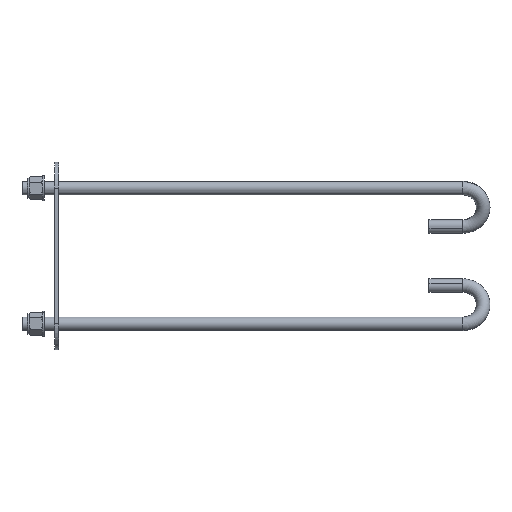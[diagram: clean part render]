
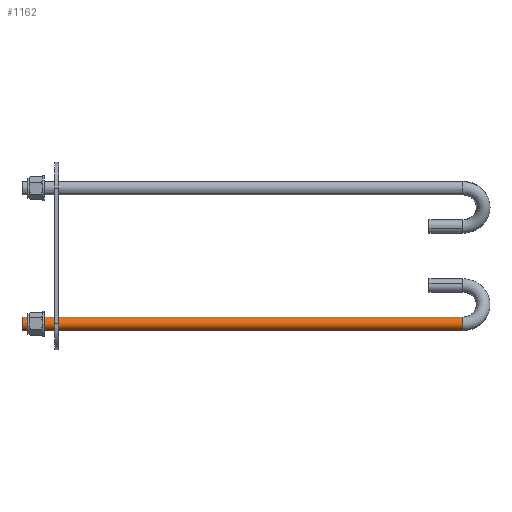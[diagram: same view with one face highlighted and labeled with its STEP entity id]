
A CAD part, left-side view. The second image highlights one B-rep face of the part: STEP entity #1162.
In plain terms, the highlighted cylindrical face has radius 10 mm (diameter 20 mm), a partial arc.
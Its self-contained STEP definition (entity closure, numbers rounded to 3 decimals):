
#33 = CARTESIAN_POINT ( 'NONE',  ( 0., -1., 0. ) ) ;
#112 = DIRECTION ( 'NONE',  ( 0., 0., 1. ) ) ;
#178 = EDGE_CURVE ( 'NONE', #249, #2437, #1096, .T. ) ;
#188 = EDGE_LOOP ( 'NONE', ( #1140, #1238, #1310, #1637 ) ) ;
#192 = DIRECTION ( 'NONE',  ( 0., 1., 0. ) ) ;
#249 = VERTEX_POINT ( 'NONE', #2328 ) ;
#271 = DIRECTION ( 'NONE',  ( 0., 1., 0. ) ) ;
#335 = DIRECTION ( 'NONE',  ( 0., 1., 0. ) ) ;
#571 = EDGE_CURVE ( 'NONE', #249, #2041, #2247, .T. ) ;
#636 = CARTESIAN_POINT ( 'NONE',  ( 10., -650., 0. ) ) ;
#641 = VECTOR ( 'NONE', #192, 1000. ) ;
#651 = DIRECTION ( 'NONE',  ( 0., -1., 0. ) ) ;
#814 = AXIS2_PLACEMENT_3D ( 'NONE', #1209, #335, #112 ) ;
#891 = LINE ( 'NONE', #636, #641 ) ;
#1092 = CARTESIAN_POINT ( 'NONE',  ( -10., -1., 0. ) ) ;
#1096 = CIRCLE ( 'NONE', #814, 10. ) ;
#1140 = ORIENTED_EDGE ( 'NONE', *, *, #178, .T. ) ;
#1162 = ADVANCED_FACE ( 'NONE', ( #2278 ), #1788, .T. ) ;
#1191 = CARTESIAN_POINT ( 'NONE',  ( 0., -650., 0. ) ) ;
#1209 = CARTESIAN_POINT ( 'NONE',  ( 0., -650., 0. ) ) ;
#1234 = VERTEX_POINT ( 'NONE', #2348 ) ;
#1238 = ORIENTED_EDGE ( 'NONE', *, *, #1506, .T. ) ;
#1242 = CIRCLE ( 'NONE', #1516, 10. ) ;
#1310 = ORIENTED_EDGE ( 'NONE', *, *, #1417, .T. ) ;
#1417 = EDGE_CURVE ( 'NONE', #1234, #2041, #1242, .T. ) ;
#1469 = CARTESIAN_POINT ( 'NONE',  ( 10., -650., 0. ) ) ;
#1506 = EDGE_CURVE ( 'NONE', #2437, #1234, #891, .T. ) ;
#1516 = AXIS2_PLACEMENT_3D ( 'NONE', #33, #651, #2461 ) ;
#1637 = ORIENTED_EDGE ( 'NONE', *, *, #571, .F. ) ;
#1649 = DIRECTION ( 'NONE',  ( -1., 0., 0. ) ) ;
#1788 = CYLINDRICAL_SURFACE ( 'NONE', #2773, 10. ) ;
#2041 = VERTEX_POINT ( 'NONE', #1092 ) ;
#2066 = DIRECTION ( 'NONE',  ( 0., 1., 0. ) ) ;
#2247 = LINE ( 'NONE', #2717, #2851 ) ;
#2278 = FACE_OUTER_BOUND ( 'NONE', #188, .T. ) ;
#2328 = CARTESIAN_POINT ( 'NONE',  ( -10., -650., 0. ) ) ;
#2348 = CARTESIAN_POINT ( 'NONE',  ( 10., -1., 0. ) ) ;
#2437 = VERTEX_POINT ( 'NONE', #1469 ) ;
#2461 = DIRECTION ( 'NONE',  ( -1., 0., 0. ) ) ;
#2717 = CARTESIAN_POINT ( 'NONE',  ( -10., -650., 0. ) ) ;
#2773 = AXIS2_PLACEMENT_3D ( 'NONE', #1191, #2066, #1649 ) ;
#2851 = VECTOR ( 'NONE', #271, 1000. ) ;
